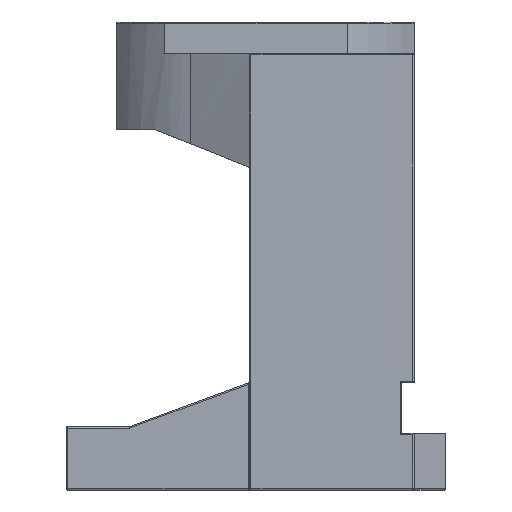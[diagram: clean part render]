
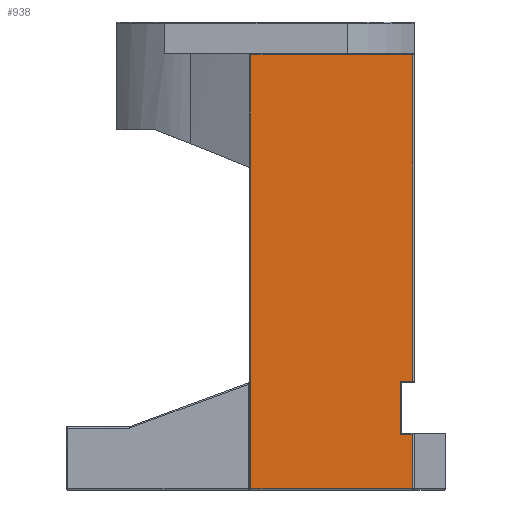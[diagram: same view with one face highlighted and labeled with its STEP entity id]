
A CAD part, left-side view. The second image highlights one B-rep face of the part: STEP entity #938.
In plain terms, the highlighted planar face has unit normal (-1, 0, 0).
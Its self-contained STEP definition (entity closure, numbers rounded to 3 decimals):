
#47 = LINE ( 'NONE', #1047, #4460 ) ;
#117 = LINE ( 'NONE', #3207, #4531 ) ;
#229 = DIRECTION ( 'NONE',  ( 0., 0., 1. ) ) ;
#422 = FACE_OUTER_BOUND ( 'NONE', #3392, .T. ) ;
#439 = ORIENTED_EDGE ( 'NONE', *, *, #4146, .T. ) ;
#458 = VECTOR ( 'NONE', #229, 1000. ) ;
#565 = VERTEX_POINT ( 'NONE', #4125 ) ;
#585 = ORIENTED_EDGE ( 'NONE', *, *, #3080, .T. ) ;
#690 = ORIENTED_EDGE ( 'NONE', *, *, #4236, .T. ) ;
#792 = CARTESIAN_POINT ( 'NONE',  ( -32.5, -22.8, 12. ) ) ;
#819 = ORIENTED_EDGE ( 'NONE', *, *, #4528, .T. ) ;
#938 = ADVANCED_FACE ( 'NONE', ( #422 ), #3947, .T. ) ;
#948 = ORIENTED_EDGE ( 'NONE', *, *, #4890, .T. ) ;
#1013 = LINE ( 'NONE', #5210, #3166 ) ;
#1032 = DIRECTION ( 'NONE',  ( 0., 0., 1. ) ) ;
#1047 = CARTESIAN_POINT ( 'NONE',  ( -32.5, -24.8, 64. ) ) ;
#1147 = VERTEX_POINT ( 'NONE', #1882 ) ;
#1191 = CARTESIAN_POINT ( 'NONE',  ( -32.5, -24.8, 12.2 ) ) ;
#1196 = CARTESIAN_POINT ( 'NONE',  ( -32.5, -22.8, 3.8 ) ) ;
#1202 = DIRECTION ( 'NONE',  ( 0., 0., -1. ) ) ;
#1530 = LINE ( 'NONE', #4319, #4792 ) ;
#1636 = CARTESIAN_POINT ( 'NONE',  ( -32.5, -22.8, 12.2 ) ) ;
#1878 = LINE ( 'NONE', #792, #458 ) ;
#1882 = CARTESIAN_POINT ( 'NONE',  ( -32.5, -24.8, -4.8 ) ) ;
#2054 = DIRECTION ( 'NONE',  ( 0., 1., 0. ) ) ;
#2217 = CARTESIAN_POINT ( 'NONE',  ( -32.5, -23., 3.8 ) ) ;
#2257 = VECTOR ( 'NONE', #1202, 1000. ) ;
#2264 = ORIENTED_EDGE ( 'NONE', *, *, #3969, .T. ) ;
#2455 = CARTESIAN_POINT ( 'NONE',  ( -32.5, 0.8, -4.8 ) ) ;
#2535 = VERTEX_POINT ( 'NONE', #1196 ) ;
#2979 = ORIENTED_EDGE ( 'NONE', *, *, #3158, .T. ) ;
#3080 = EDGE_CURVE ( 'NONE', #565, #2535, #5494, .T. ) ;
#3158 = EDGE_CURVE ( 'NONE', #2535, #3864, #1878, .T. ) ;
#3166 = VECTOR ( 'NONE', #5285, 1000. ) ;
#3192 = DIRECTION ( 'NONE',  ( 0., -1., 0. ) ) ;
#3207 = CARTESIAN_POINT ( 'NONE',  ( -32.5, -25., 12.2 ) ) ;
#3371 = VERTEX_POINT ( 'NONE', #4540 ) ;
#3392 = EDGE_LOOP ( 'NONE', ( #585, #2979, #5365, #2264, #439, #690, #819, #948 ) ) ;
#3550 = AXIS2_PLACEMENT_3D ( 'NONE', #4333, #3933, #3914 ) ;
#3570 = EDGE_CURVE ( 'NONE', #3864, #5479, #117, .T. ) ;
#3670 = VERTEX_POINT ( 'NONE', #2455 ) ;
#3864 = VERTEX_POINT ( 'NONE', #1636 ) ;
#3914 = DIRECTION ( 'NONE',  ( 0., 1., 0. ) ) ;
#3933 = DIRECTION ( 'NONE',  ( -1., 0., 0. ) ) ;
#3947 = PLANE ( 'NONE',  #3550 ) ;
#3969 = EDGE_CURVE ( 'NONE', #5479, #3371, #47, .T. ) ;
#4068 = LINE ( 'NONE', #5449, #5168 ) ;
#4125 = CARTESIAN_POINT ( 'NONE',  ( -32.5, -24.8, 3.8 ) ) ;
#4146 = EDGE_CURVE ( 'NONE', #3371, #4928, #1530, .T. ) ;
#4236 = EDGE_CURVE ( 'NONE', #4928, #3670, #4652, .T. ) ;
#4272 = VECTOR ( 'NONE', #2054, 1000. ) ;
#4319 = CARTESIAN_POINT ( 'NONE',  ( -32.5, -25., 63.8 ) ) ;
#4333 = CARTESIAN_POINT ( 'NONE',  ( -32.5, -25., 64. ) ) ;
#4460 = VECTOR ( 'NONE', #1032, 1000. ) ;
#4528 = EDGE_CURVE ( 'NONE', #3670, #1147, #4068, .T. ) ;
#4531 = VECTOR ( 'NONE', #3192, 1000. ) ;
#4540 = CARTESIAN_POINT ( 'NONE',  ( -32.5, -24.8, 63.8 ) ) ;
#4581 = DIRECTION ( 'NONE',  ( 0., 1., 0. ) ) ;
#4652 = LINE ( 'NONE', #5378, #2257 ) ;
#4792 = VECTOR ( 'NONE', #4581, 1000. ) ;
#4890 = EDGE_CURVE ( 'NONE', #1147, #565, #1013, .T. ) ;
#4928 = VERTEX_POINT ( 'NONE', #4955 ) ;
#4955 = CARTESIAN_POINT ( 'NONE',  ( -32.5, 0.8, 63.8 ) ) ;
#5168 = VECTOR ( 'NONE', #5427, 1000. ) ;
#5210 = CARTESIAN_POINT ( 'NONE',  ( -32.5, -24.8, 4. ) ) ;
#5285 = DIRECTION ( 'NONE',  ( 0., 0., 1. ) ) ;
#5365 = ORIENTED_EDGE ( 'NONE', *, *, #3570, .T. ) ;
#5378 = CARTESIAN_POINT ( 'NONE',  ( -32.5, 0.8, -5. ) ) ;
#5427 = DIRECTION ( 'NONE',  ( 0., -1., 0. ) ) ;
#5449 = CARTESIAN_POINT ( 'NONE',  ( -32.5, -25., -4.8 ) ) ;
#5479 = VERTEX_POINT ( 'NONE', #1191 ) ;
#5494 = LINE ( 'NONE', #2217, #4272 ) ;
